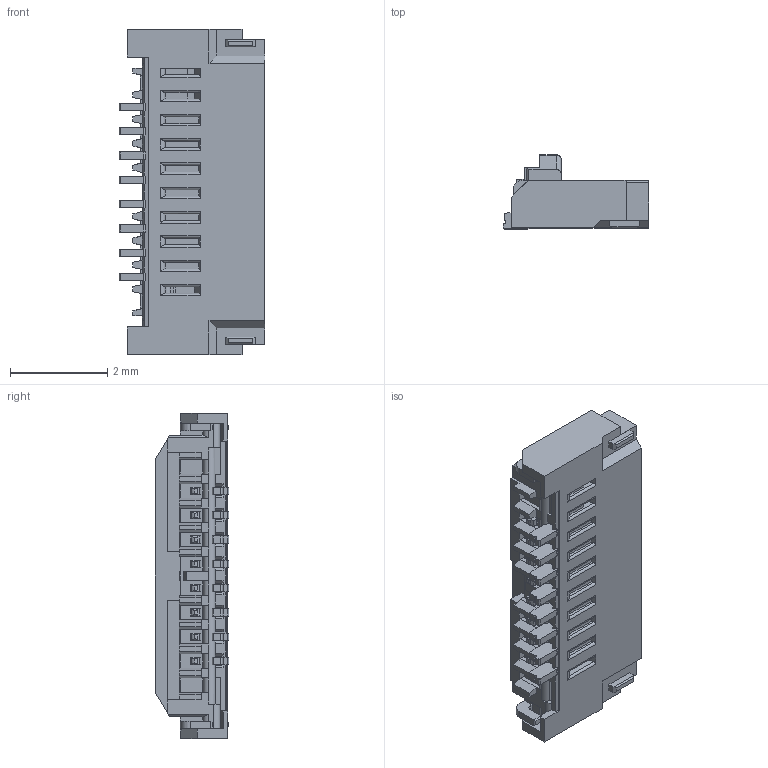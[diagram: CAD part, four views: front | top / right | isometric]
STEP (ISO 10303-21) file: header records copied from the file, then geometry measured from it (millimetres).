
FILE_DESCRIPTION (( 'STEP AP214' ), '1' );
FILE_NAME ('20598-RECE ASS''Y 6P ACT OPEN.STEP', '2015-07-22T06:39:33', ( '' ), ( '' ), 'SwSTEP 2.0', 'SolidWorks 2012', '' );
FILE_SCHEMA (( 'AUTOMOTIVE_DESIGN' ));
Length unit declared in the file: millimetre
Products named in the file (1): 20598-RECE ASS''Y 6P ACT OPEN
Bounding box: 3 x 1.52 x 6.7 mm (x, y, z)
Volume: 17.2 mm3; surface area: 73.1 mm2
Topology: 1 solids, 3 shells, 638 faces, 1781 edges, 1153 vertices
Faces by surface type: plane 487, cylinder 149, sphere 2
Entity records: 20428 total; most frequent: CARTESIAN_POINT 4210, ORIENTED_EDGE 3558, DIRECTION 3132, EDGE_CURVE 1779, LINE 1430, VECTOR 1430, VERTEX_POINT 1153, AXIS2_PLACEMENT_3D 851
